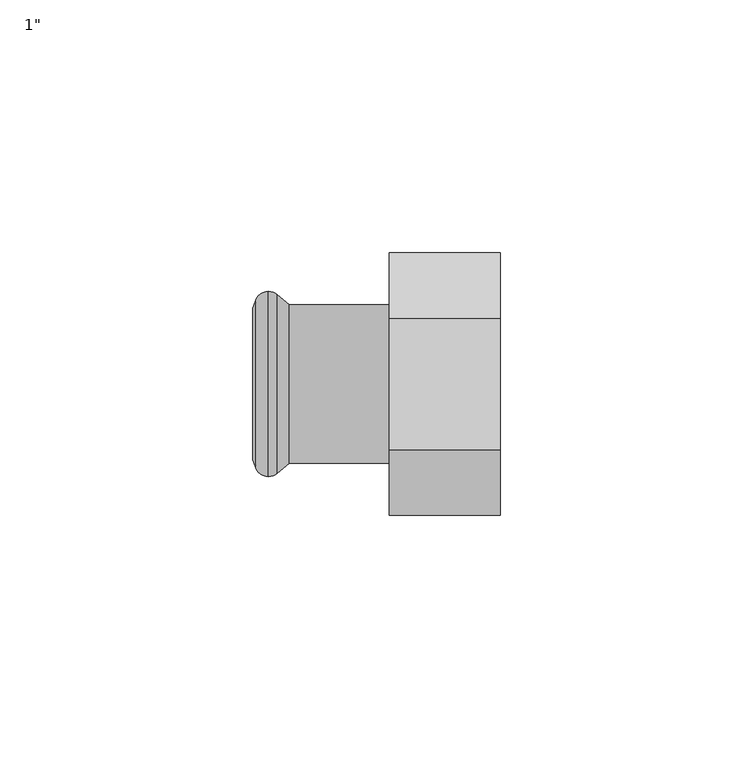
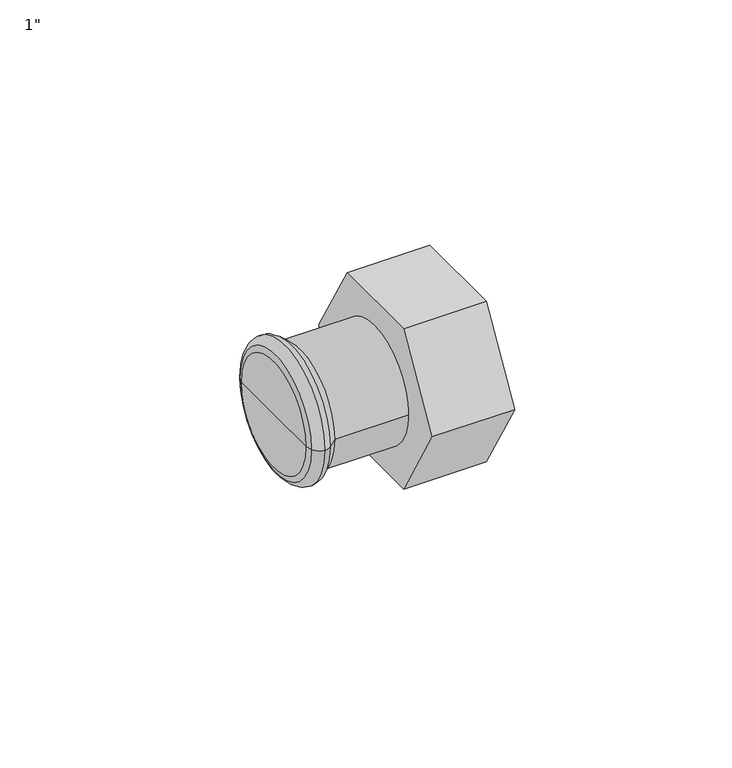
"""IFC4 building model written with IfcOpenShell, lengths in millimetres: pipe fitting geometry."""

from ifc_helpers import new_model, si_unit, point, frame, origin, place, context, project, spatial, polyline, circle_curve, ellipse_curve, trimmed, outline, extrude, source, transform, mapped, element, save
from ifc_brep_helpers import plane_surface, cylinder_surface, revolved_surface, advanced_brep


def pipe_fitting_afff2d30(model_context):
    return source(origin(), model_context, "Body", "SolidModel", [
        extrude(outline(polyline([(-25.9807621, 0.0), (-12.9903811, 22.5), (12.9903811, 22.5), (25.9807621, 0.0), (12.9903811, -22.5), (-12.9903811, -22.5), (-25.9807621, 0.0)])), frame((0.0, 0.0, 0.0), z_axis=(1.0, 0.0, 0.0), x_axis=(0.0, 1.0, 0.0)), (0.0, 0.0, 1.0), 22.0),
        advanced_brep(
        [(-19.7838092, -15.7, 0.0), (-19.7838092, 15.7, 0.0), (0.0, 15.7, 0.0), (0.0, -15.7, 0.0), (-22.0922627, -17.6370225, 0.0), (-22.0922627, 17.6370225, 0.0), (-23.8921278, -18.325, 0.0), (-23.8921278, 18.325, 0.0), (-26.432052, -16.5484544, 0.0), (-26.432052, 16.5484544, 0.0), (-27.0, -14.9880302, 0.0), (-27.0, 14.9880302, 0.0), (-27.0, 0.0, 0.0), (0.0, 0.0, 0.0)],
        [
            (0, 1, circle_curve(frame((-19.7838092, 0.0, 0.0), z_axis=(1.0, 0.0, 0.0), x_axis=(0.0, 1.0, 0.0)), 15.7)),
            (1, 2),
            (2, 3, circle_curve(frame((0.0, 0.0, 0.0), z_axis=(-1.0, 0.0, 0.0), x_axis=(0.0, 1.0, 0.0)), 15.7)),
            (3, 0),
            (1, 0, circle_curve(frame((-19.7838092, 0.0, 0.0), z_axis=(1.0, 0.0, 0.0), x_axis=(0.0, 1.0, 0.0)), 15.7)),
            (3, 2, circle_curve(frame((0.0, 0.0, 0.0), z_axis=(-1.0, 0.0, 0.0), x_axis=(0.0, 1.0, 0.0)), 15.7)),
            (4, 5, circle_curve(frame((-22.0922627, 0.0, 0.0), z_axis=(1.0, 0.0, 0.0), x_axis=(0.0, 1.0, 0.0)), 17.6370225)),
            (5, 1),
            (0, 4),
            (5, 4, circle_curve(frame((-22.0922627, 0.0, 0.0), z_axis=(1.0, 0.0, 0.0), x_axis=(0.0, 1.0, 0.0)), 17.6370225)),
            (6, 7, circle_curve(frame((-23.8921278, 0.0, 0.0), z_axis=(1.0, 0.0, 0.0), x_axis=(0.0, 1.0, 0.0)), 18.325)),
            (7, 5, circle_curve(frame((-23.8935049, 15.6230333, 0.0), z_axis=(0.0, 0.0, -1.0), x_axis=(1.0, 0.0, 0.0)), 2.701967)),
            (4, 6, circle_curve(frame((-23.8935049, -15.6230333, 0.0), z_axis=(0.0, 0.0, -1.0), x_axis=(1.0, 0.0, 0.0)), 2.701967)),
            (7, 6, circle_curve(frame((-23.8921278, 0.0, 0.0), z_axis=(1.0, 0.0, 0.0), x_axis=(0.0, 1.0, 0.0)), 18.325)),
            (8, 9, circle_curve(frame((-26.432052, 0.0, 0.0), z_axis=(1.0, 0.0, 0.0), x_axis=(0.0, 1.0, 0.0)), 16.5484544)),
            (9, 7, circle_curve(frame((-23.89488, 15.6249993, 0.0), z_axis=(0.0, 0.0, -1.0), x_axis=(1.0, 0.0, 0.0)), 2.7000021)),
            (6, 8, circle_curve(frame((-23.89488, -15.6249993, 0.0), z_axis=(0.0, 0.0, -1.0), x_axis=(1.0, 0.0, 0.0)), 2.7000021)),
            (9, 8, circle_curve(frame((-26.432052, 0.0, 0.0), z_axis=(1.0, 0.0, 0.0), x_axis=(0.0, 1.0, 0.0)), 16.5484544)),
            (10, 11, circle_curve(frame((-27.0, 0.0, 0.0), z_axis=(1.0, 0.0, 0.0), x_axis=(0.0, 1.0, 0.0)), 14.9880302)),
            (11, 9),
            (8, 10),
            (11, 10, circle_curve(frame((-27.0, 0.0, 0.0), z_axis=(1.0, 0.0, 0.0), x_axis=(0.0, 1.0, 0.0)), 14.9880302)),
            (12, 11),
            (10, 12),
            (2, 13),
            (13, 3),
        ],
        [
            cylinder_surface(frame((1350.742668, 0.0, 0.0), z_axis=(-1.0, 0.0, 0.0), x_axis=(0.0, 1.0, 0.0)), 15.7),
            revolved_surface(polyline([(-19.7838092, 15.7, 0.0), (-22.0922627, 17.6370225, 0.0)]), (1350.742668, 0.0, 0.0), (-1.0, 0.0, 0.0)),
            revolved_surface(trimmed(ellipse_curve(frame((-23.8935049, 15.6230333, 0.0), z_axis=(0.0, 0.0, 1.0), x_axis=(1.0, 0.0, 0.0)), 2.701967, 2.701967), [point((-22.0922627, 17.6370225, 0.0))], [point((-23.8921278, 18.325, 0.0))], True, "CARTESIAN"), (1350.742668, 0.0, 0.0), (-1.0, 0.0, 0.0)),
            revolved_surface(trimmed(ellipse_curve(frame((-23.89488, 15.6249993, 0.0), z_axis=(0.0, 0.0, 1.0), x_axis=(1.0, 0.0, 0.0)), 2.7000021, 2.7000021), [point((-23.8921278, 18.325, 0.0))], [point((-26.432052, 16.5484544, 0.0))], True, "CARTESIAN"), (1350.742668, 0.0, 0.0), (-1.0, 0.0, 0.0)),
            revolved_surface(polyline([(-26.432052, 16.5484544, 0.0), (-27.0, 14.9880302, 0.0)]), (1350.742668, 0.0, 0.0), (-1.0, 0.0, 0.0)),
            plane_surface(frame((-27.0, 0.0, 0.0), z_axis=(-1.0, 0.0, 0.0), x_axis=(0.0, 1.0, 0.0))),
            plane_surface(frame((0.0, 0.0, 0.0), z_axis=(1.0, 0.0, 0.0), x_axis=(0.0, 1.0, 0.0))),
        ],
        [
            (0, [[1, 2, 3, 4]]),
            (0, [[5, -4, 6, -2]]),
            (1, [[7, 8, -1, 9]]),
            (1, [[10, -9, -5, -8]]),
            (2, [[11, 12, -7, 13]]),
            (2, [[14, -13, -10, -12]]),
            (3, [[15, 16, -11, 17]]),
            (3, [[18, -17, -14, -16]]),
            (4, [[19, 20, -15, 21]]),
            (4, [[22, -21, -18, -20]]),
            (5, [[23, -19, 24]]),
            (5, [[-24, -22, -23]]),
            (6, [[-3, 25, 26]]),
            (6, [[-6, -26, -25]]),
        ],
    ),
    ])


if __name__ == "__main__":
    model = new_model("IFC4")
    model_context = context("Model", 3, world=origin())
    ifc_project = project(units=[si_unit("LENGTHUNIT", "METRE", prefix="MILLI")], contexts=[model_context])
    site = spatial("IfcSite", under=ifc_project)
    building = spatial("IfcBuilding", under=site)
    placement = place(None, origin())
    pipe_fitting_shape = pipe_fitting_afff2d30(model_context)
    element("IfcPipeFitting", 1, ObjectType="KAN-therm Steel złączka z GW : 1\"", at=placement, inside=building, context=model_context, shape_type="MappedRepresentation", body=[
        mapped(pipe_fitting_shape, transform((0.0, 0.0, 0.0), x_axis=(1.0, 0.0, 0.0), y_axis=(0.0, 1.0, 0.0), z_axis=(0.0, 0.0, 1.0))),
    ])
    save(model, "model.ifc")
